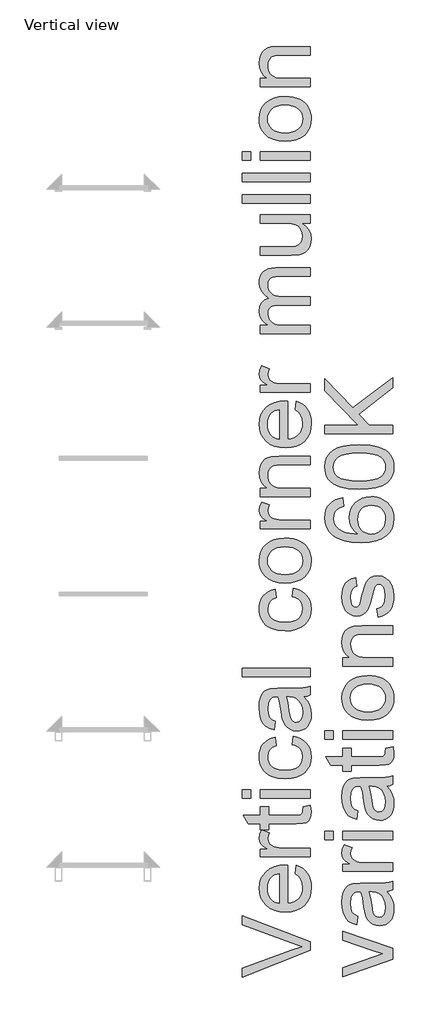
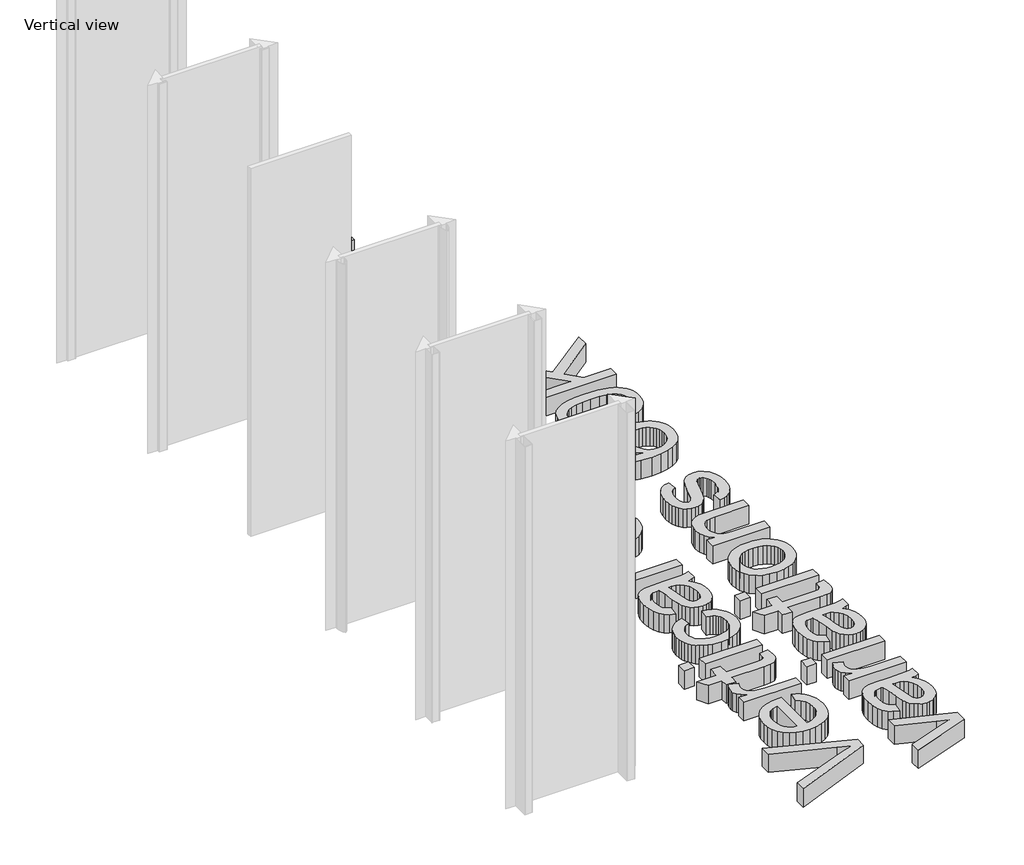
# One storey, part 5 of 8: 1 proxy.
"""IFC4 building model written with IfcOpenShell, lengths in millimetres."""

from ifc_helpers import new_model, si_unit, origin, origin_with_axes, place, context, project, spatial, polyline, outline, extrude, element, save

model = new_model("IFC4")

# Units and contexts
model_context = context("Model", 3, world=origin())
ifc_project = project(units=[si_unit("LENGTHUNIT", "METRE", prefix="MILLI")], contexts=[model_context])

# Site, building, storey
site = spatial("IfcSite", under=ifc_project)
building = spatial("IfcBuilding", under=site)
storey = spatial("IfcBuildingStorey", under=building, Name="Vertical view", Elevation=0.0)

# Proxy
placement = place(None, origin())
element("IfcBuildingElementProxy", 1, Name="600mm Arial", ObjectType="600mm Arial", at=placement, inside=storey, context=model_context, shape_type="SweptSolid", body=[
    extrude(outline(polyline([(4964.1466377, -21361.7583093), (4361.4087768, -21601.6173702), (4361.4087768, -21520.9776368), (4795.6566839, -21360.4339341), (4893.5132947, -21327.9131658), (4795.6566839, -21295.8338558), (4361.4087768, -21134.8486947), (4361.4087768, -21054.2089613), (4964.1466377, -21283.9144791), (4964.1466377, -21361.7583093)])), origin_with_axes(), (0.0, 0.0, 1.0), 150.0),
    extrude(outline(polyline([(4832.2977307, -20683.6782158), (4841.7155097, -20609.8075112), (4871.3024192, -20621.1336781), (4897.3760556, -20636.4237735), (4919.936419, -20655.6777974), (4938.9835093, -20678.8957499), (4954.1126563, -20705.8385075), (4964.9191899, -20736.266947), (4971.4031101, -20770.1810684), (4973.5644168, -20807.5808718), (4969.8350131, -20854.3294763), (4958.6468019, -20895.9829152), (4939.9997833, -20932.5411885), (4913.8939572, -20964.0042961), (4881.0558906, -20989.3053803), (4842.2121504, -21007.3775834), (4797.3627367, -21018.2209052), (4746.5076494, -21021.8353458), (4693.9281152, -21018.184117), (4647.5841809, -21007.2304306), (4607.4758464, -20988.9742865), (4573.6031116, -20963.4156849), (4546.6925437, -20932.0353507), (4527.4707095, -20896.314009), (4515.9376089, -20856.2516597), (4512.0932421, -20811.8483029), (4515.9284119, -20768.8750874), (4527.4339213, -20730.0129531), (4546.6097703, -20695.2619001), (4573.4559589, -20664.6219284), (4607.2551172, -20639.6105513), (4647.2898753, -20621.7452819), (4693.5602332, -20611.0261203), (4746.066191, -20607.4530664), (4766.3732771, -20607.8945248), (4766.3732771, -20946.4931132), (4796.4384332, -20942.129113), (4822.769587, -20933.4516964), (4845.3667385, -20920.4608635), (4864.2298878, -20903.1566141), (4879.1015175, -20882.4954416), (4889.7241101, -20859.433839), (4896.0976657, -20833.9718064), (4898.2221842, -20806.1093438), (4894.2858468, -20766.0102063), (4882.4768348, -20732.2386392), (4862.0593841, -20704.7946423), (4832.2977307, -20683.6782158)]), holes=[polyline([(4691.0310445, -20946.4931132), (4691.0310445, -20682.795299), (4651.2262126, -20692.9856303), (4635.5728337, -20701.7504188), (4622.7521462, -20712.9616226), (4607.3011024, -20733.507832), (4596.2646426, -20756.8867328), (4589.6427666, -20783.098325), (4587.4354747, -20812.1426085), (4589.1967097, -20838.6347107), (4594.4804149, -20862.9287179), (4603.2865901, -20885.0246303), (4615.6152355, -20904.9224477), (4630.8961339, -20921.6196918), (4648.5590682, -20934.113884), (4668.6040384, -20942.4050245), (4691.0310445, -20946.4931132)])]), origin_with_axes(), (0.0, 0.0, 1.0), 150.0),
    extrude(outline(polyline([(4964.1466377, -20532.1108338), (4521.5110211, -20532.1108338), (4521.5110211, -20466.1863802), (4586.9940163, -20466.1863802), (4549.0285944, -20441.8325922), (4526.6613691, -20419.3917905), (4515.7352738, -20396.8774124), (4512.0932421, -20372.3028951), (4517.9057776, -20334.7789316), (4535.3433842, -20296.6663569), (4602.8865185, -20321.8294853), (4591.2982356, -20348.316989), (4587.4354747, -20374.8044926), (4591.1510828, -20397.3004767), (4602.2979073, -20417.4052277), (4620.0298194, -20433.6472178), (4643.5006907, -20444.5549189), (4685.586391, -20453.7151806), (4731.498064, -20456.7686012), (4964.1466377, -20456.7686012), (4964.1466377, -20532.1108338)])), origin_with_axes(), (0.0, 0.0, 1.0), 150.0),
    extrude(outline(polyline([(4901.312393, -20089.4752172), (4966.3539297, -20080.0574381), (4973.5644168, -20136.4169598), (4970.4374198, -20172.5797599), (4961.056429, -20199.5455101), (4946.5986666, -20218.6017975), (4928.241355, -20231.0362089), (4896.713868, -20237.878814), (4842.7455793, -20240.1596824), (4596.8532537, -20240.1596824), (4596.8532537, -20296.6663569), (4521.5110211, -20296.6663569), (4521.5110211, -20240.1596824), (4413.9423257, -20240.1596824), (4369.6493335, -20164.8174498), (4521.5110211, -20164.8174498), (4521.5110211, -20089.4752172), (4596.8532537, -20089.4752172), (4596.8532537, -20164.8174498), (4840.5382873, -20164.8174498), (4879.386626, -20160.8443243), (4893.1454127, -20147.9684544), (4896.9529913, -20137.0975415), (4898.2221842, -20122.2902912), (4901.312393, -20089.4752172)])), origin_with_axes(), (0.0, 0.0, 1.0), 150.0),
    extrude(outline(polyline([(4964.1466377, -20014.1329846), (4521.5110211, -20014.1329846), (4521.5110211, -19938.790752), (4964.1466377, -19938.790752), (4964.1466377, -20014.1329846)])), origin_with_axes(), (0.0, 0.0, 1.0), 150.0),
    extrude(outline(polyline([(4436.7510094, -20014.1329846), (4361.4087768, -20014.1329846), (4361.4087768, -19938.790752), (4436.7510094, -19938.790752), (4436.7510094, -20014.1329846)])), origin_with_axes(), (0.0, 0.0, 1.0), 150.0),
    extrude(outline(polyline([(4804.0443934, -19543.2440307), (4813.4621725, -19467.9017981), (4849.0133688, -19476.0963696), (4880.4718779, -19488.9078601), (4907.8376998, -19506.3362696), (4931.1108346, -19528.3815981), (4949.6842768, -19554.1149437), (4962.9510212, -19582.6074042), (4970.9110679, -19613.8589797), (4973.5644168, -19647.8696702), (4969.8626042, -19690.1255158), (4958.7571665, -19728.0127628), (4940.2481036, -19761.5314111), (4914.3354156, -19790.6814607), (4881.506546, -19814.2764922), (4842.2489386, -19831.1300861), (4796.5625934, -19841.2422424), (4744.4475102, -19844.6129612), (4677.4010166, -19838.855608), (4647.2300945, -19831.6589164), (4619.2940555, -19821.5835483), (4594.1539196, -19808.5605257), (4572.370707, -19792.5208707), (4553.9444175, -19773.4645833), (4538.8750513, -19751.3916636), (4527.1580098, -19727.2999915), (4518.7886944, -19702.1874468), (4513.7671051, -19676.0540295), (4512.0932421, -19648.8997398), (4514.3925045, -19615.473062), (4521.2902919, -19585.2377605), (4532.7866043, -19558.1938353), (4548.8814416, -19534.3412865), (4569.2069218, -19514.0847841), (4593.395163, -19497.8289984), (4621.4461651, -19485.5739295), (4653.3599282, -19477.3195772), (4662.7777073, -19552.6618098), (4629.907451, -19566.3286259), (4606.3446092, -19587.6105994), (4592.1627583, -19615.3305077), (4587.4354747, -19648.3111286), (4589.7623283, -19673.9111169), (4596.7428891, -19697.0003106), (4608.3771572, -19717.5787097), (4624.6651326, -19735.6463142), (4645.9838942, -19750.3569955), (4672.7105211, -19760.864625), (4704.8450134, -19767.1692027), (4742.387371, -19769.2707286), (4780.4953472, -19767.2151879), (4813.00232, -19761.048566), (4839.9082894, -19750.7708628), (4861.2132555, -19736.3820782), (4877.4046618, -19718.6731587), (4888.969952, -19698.4350504), (4895.9091261, -19675.6677534), (4898.2221842, -19650.3712677), (4892.4464369, -19611.3573822), (4885.2267527, -19594.4853942), (4875.1191949, -19579.3700427), (4862.0133988, -19566.434392), (4845.7989999, -19556.1015065), (4826.4759981, -19548.3713861), (4804.0443934, -19543.2440307)])), origin_with_axes(), (0.0, 0.0, 1.0), 150.0),
    extrude(outline(polyline([(4907.6399633, -19119.4439723), (4938.5052627, -19155.4412255), (4958.7019842, -19192.5053365), (4969.8488087, -19231.4824339), (4973.5644168, -19273.2186463), (4971.3295337, -19306.7648857), (4964.6248843, -19336.1816498), (4953.4504687, -19361.4689384), (4937.8062869, -19382.6267517), (4918.6856202, -19399.3331928), (4897.08175, -19411.266365), (4872.9946764, -19418.4262683), (4846.4243993, -19420.8129028), (4815.1912179, -19417.2076592), (4786.8275161, -19406.3919285), (4762.5473044, -19389.7084801), (4743.5645934, -19368.500083), (4729.2171956, -19343.5760779), (4718.8429233, -19315.7458049), (4707.5121579, -19250.5571154), (4695.5927812, -19173.5226256), (4681.6132654, -19119.8854307), (4664.8378465, -19119.4439723), (4631.2134321, -19124.6311084), (4618.7606266, -19131.1150286), (4609.2140888, -19140.1925168), (4599.6859451, -19155.8826839), (4592.8801282, -19174.9941536), (4587.4354747, -19223.4810005), (4591.0591123, -19268.362604), (4601.9300253, -19299.7061499), (4622.0347763, -19321.0800939), (4653.3599282, -19336.0528911), (4643.9421491, -19411.3951237), (4602.7393657, -19398.3169187), (4570.3657501, -19378.8007789), (4545.6072918, -19351.0256883), (4527.2499803, -19313.170631), (4515.8824266, -19266.8726819), (4512.0932421, -19213.7689159), (4515.4409682, -19162.8356536), (4525.4841467, -19122.4606047), (4540.5857026, -19092.0183696), (4559.108561, -19070.8835489), (4582.0092152, -19056.8672449), (4610.2441584, -19047.7805596), (4676.1686119, -19044.1017397), (4769.9049443, -19044.1017397), (4900.7973582, -19040.2757669), (4933.1525796, -19034.6103842), (4964.1466377, -19025.2661815), (4964.1466377, -19100.6084142), (4937.9534397, -19112.6749436), (4907.6399633, -19119.4439723)]), holes=[polyline([(4756.955498, -19119.4439723), (4769.5002741, -19170.0645348), (4780.0584873, -19240.9921835), (4792.2721696, -19305.8129911), (4800.6230909, -19322.6803805), (4812.1377973, -19335.1699743), (4825.9333721, -19342.8954962), (4841.1268985, -19345.4706701), (4863.530912, -19339.8604697), (4881.8882236, -19323.0298684), (4894.138694, -19295.3467483), (4898.2221842, -19257.1789913), (4893.7156298, -19216.7119718), (4880.1959664, -19180.9538419), (4860.2751564, -19151.9647407), (4836.5651618, -19131.8048073), (4812.1377973, -19122.8652749), (4778.2926538, -19119.8854307), (4756.955498, -19119.4439723)])]), origin_with_axes(), (0.0, 0.0, 1.0), 150.0),
    extrude(outline(polyline([(4964.1466377, -18940.5061699), (4361.4087768, -18940.5061699), (4361.4087768, -18865.1639372), (4964.1466377, -18865.1639372), (4964.1466377, -18940.5061699)])), origin_with_axes(), (0.0, 0.0, 1.0), 150.0),
    extrude(outline(polyline([(4804.0443934, -18234.1727391), (4813.4621725, -18158.8305065), (4849.0133688, -18167.0250779), (4880.4718779, -18179.8365684), (4907.8376998, -18197.2649779), (4931.1108346, -18219.3103065), (4949.6842768, -18245.0436521), (4962.9510212, -18273.5361126), (4970.9110679, -18304.7876881), (4973.5644168, -18338.7983785), (4969.8626042, -18381.0542242), (4958.7571665, -18418.9414712), (4940.2481036, -18452.4601195), (4914.3354156, -18481.6101691), (4881.506546, -18505.2052005), (4842.2489386, -18522.0587944), (4796.5625934, -18532.1709508), (4744.4475102, -18535.5416696), (4677.4010166, -18529.7843163), (4647.2300945, -18522.5876248), (4619.2940555, -18512.5122567), (4594.1539196, -18499.489234), (4572.370707, -18483.449579), (4553.9444175, -18464.3932917), (4538.8750513, -18442.320372), (4527.1580098, -18418.2286998), (4518.7886944, -18393.1161551), (4513.7671051, -18366.9827379), (4512.0932421, -18339.8284481), (4514.3925045, -18306.4017703), (4521.2902919, -18276.1664689), (4532.7866043, -18249.1225437), (4548.8814416, -18225.2699948), (4569.2069218, -18205.0134925), (4593.395163, -18188.7577068), (4621.4461651, -18176.5026378), (4653.3599282, -18168.2482856), (4662.7777073, -18243.5905182), (4629.907451, -18257.2573343), (4606.3446092, -18278.5393077), (4592.1627583, -18306.2592161), (4587.4354747, -18339.2398369), (4589.7623283, -18364.8398253), (4596.7428891, -18387.929019), (4608.3771572, -18408.5074181), (4624.6651326, -18426.5750226), (4645.9838942, -18441.2857039), (4672.7105211, -18451.7933334), (4704.8450134, -18458.0979111), (4742.387371, -18460.1994369), (4780.4953472, -18458.1438963), (4813.00232, -18451.9772744), (4839.9082894, -18441.6995711), (4861.2132555, -18427.3107866), (4877.4046618, -18409.601867), (4888.969952, -18389.3637588), (4895.9091261, -18366.5964618), (4898.2221842, -18341.2999761), (4892.4464369, -18302.2860905), (4885.2267527, -18285.4141025), (4875.1191949, -18270.298751), (4862.0133988, -18257.3631004), (4845.7989999, -18247.0302148), (4826.4759981, -18239.3000944), (4804.0443934, -18234.1727391)])), origin_with_axes(), (0.0, 0.0, 1.0), 150.0),
    extrude(outline(polyline([(4742.8288294, -18111.7416111), (4685.5036175, -18107.667318), (4636.1062626, -18095.4444387), (4594.6367647, -18075.0729732), (4561.0951238, -18046.5529216), (4539.6568005, -18017.8397318), (4524.3437125, -17986.146698), (4515.1558597, -17951.4738199), (4512.0932421, -17913.8210977), (4515.8226458, -17872.2550308), (4527.010857, -17834.6712864), (4545.6578756, -17801.0698647), (4571.7637017, -17771.4507656), (4604.4454184, -17747.27632), (4642.820109, -17730.0088588), (4686.8877735, -17719.6483821), (4736.6484119, -17716.1948899), (4776.9774756, -17717.7216002), (4812.7631967, -17722.301731), (4844.0055752, -17729.9352824), (4870.704611, -17740.6222544), (4893.7662135, -17754.2292897), (4914.0962923, -17770.6230311), (4931.6948472, -17789.8034786), (4946.5618784, -17811.7706323), (4958.3754889, -17835.6691664), (4966.8137822, -17860.6437553), (4971.8767582, -17886.6943991), (4973.5644168, -17913.8210977), (4969.8488087, -17955.9941699), (4958.7019842, -17993.9274022), (4940.1239434, -18027.6207944), (4914.1146864, -18057.0743466), (4881.1156714, -18080.9912748), (4841.5683569, -18098.074795), (4795.4727429, -18108.3249071), (4742.8288294, -18111.7416111)]), holes=[polyline([(4742.6816766, -18036.3993785), (4779.2261543, -18034.2196777), (4810.8686044, -18027.6805752), (4837.609027, -18016.7820711), (4859.4474219, -18001.5241654), (4876.4113804, -17982.9645187), (4888.5284936, -17962.1607919), (4895.7987615, -17939.1129849), (4898.2221842, -17913.8210977), (4895.784966, -17888.6579692), (4888.4733113, -17865.7021327), (4876.2872202, -17844.9535882), (4859.2266927, -17826.4123357), (4837.1721671, -17811.1544299), (4810.0040817, -17800.2559258), (4777.7224367, -17793.7168233), (4740.3272319, -17791.5371225), (4704.9415825, -17793.7306189), (4674.1268668, -17800.3111081), (4647.883085, -17811.2785901), (4626.210237, -17826.6330649), (4609.2462785, -17845.2432953), (4597.1291652, -17865.9780442), (4589.8588973, -17888.8373117), (4587.4354747, -17913.8210977), (4589.8497003, -17939.1129849), (4597.092377, -17962.1607919), (4609.163505, -17982.9645187), (4626.0630842, -18001.5241654), (4647.8370998, -18016.7820711), (4674.531537, -18027.6805752), (4706.146396, -18034.2196777), (4742.6816766, -18036.3993785)])]), origin_with_axes(), (0.0, 0.0, 1.0), 150.0),
    extrude(outline(polyline([(4964.1466377, -17631.4348782), (4521.5110211, -17631.4348782), (4521.5110211, -17565.5104247), (4586.9940163, -17565.5104247), (4549.0285944, -17541.1566366), (4526.6613691, -17518.7158349), (4515.7352738, -17496.2014568), (4512.0932421, -17471.6269395), (4517.9057776, -17434.102976), (4535.3433842, -17395.9904013), (4602.8865185, -17421.1535298), (4591.2982356, -17447.6410334), (4587.4354747, -17474.1285371), (4591.1510828, -17496.6245211), (4602.2979073, -17516.7292721), (4620.0298194, -17532.9712622), (4643.5006907, -17543.8789634), (4685.586391, -17553.039225), (4731.498064, -17556.0926456), (4964.1466377, -17556.0926456), (4964.1466377, -17631.4348782)])), origin_with_axes(), (0.0, 0.0, 1.0), 150.0),
    extrude(outline(polyline([(4964.1466377, -17348.9015059), (4521.5110211, -17348.9015059), (4521.5110211, -17273.5592733), (4583.3151963, -17273.5592733), (4552.1555913, -17247.3844693), (4529.8987306, -17215.9489529), (4516.5446142, -17179.2527238), (4512.0932421, -17137.2957823), (4515.6800915, -17100.1580949), (4526.4406399, -17066.1474044), (4543.0321178, -17037.7837026), (4564.1117562, -17017.5869811), (4589.6243725, -17003.8833767), (4619.5147846, -16994.9990266), (4692.3554197, -16991.025901), (4964.1466377, -16991.025901), (4964.1466377, -17066.3681336), (4702.5089628, -17066.3681336), (4663.5502595, -17068.5386374), (4635.8487452, -17075.0501487), (4616.0015116, -17087.0614959), (4600.6056501, -17105.7315071), (4590.7280185, -17129.6622309), (4587.4354747, -17157.4557156), (4589.2840817, -17180.3333772), (4594.8299028, -17201.583161), (4604.0729379, -17221.2050669), (4617.0131871, -17239.199095), (4635.1221783, -17254.231673), (4659.8714395, -17264.9692287), (4691.2609708, -17271.4117622), (4729.290772, -17273.5592733), (4964.1466377, -17273.5592733), (4964.1466377, -17348.9015059)])), origin_with_axes(), (0.0, 0.0, 1.0), 150.0),
    extrude(outline(polyline([(4832.2977307, -16577.5265384), (4841.7155097, -16503.6558338), (4871.3024192, -16514.9820007), (4897.3760556, -16530.2720962), (4919.936419, -16549.5261201), (4938.9835093, -16572.7440725), (4954.1126563, -16599.6868301), (4964.9191899, -16630.1152696), (4971.4031101, -16664.0293911), (4973.5644168, -16701.4291944), (4969.8350131, -16748.1777989), (4958.6468019, -16789.8312378), (4939.9997833, -16826.3895111), (4913.8939572, -16857.8526188), (4881.0558906, -16883.153703), (4842.2121504, -16901.225906), (4797.3627367, -16912.0692278), (4746.5076494, -16915.6836684), (4693.9281152, -16912.0324396), (4647.5841809, -16901.0787532), (4607.4758464, -16882.8226092), (4573.6031116, -16857.2640076), (4546.6925437, -16825.8836734), (4527.4707095, -16790.1623316), (4515.9376089, -16750.0999824), (4512.0932421, -16705.6966256), (4515.9284119, -16662.72341), (4527.4339213, -16623.8612757), (4546.6097703, -16589.1102228), (4573.4559589, -16558.4702511), (4607.2551172, -16533.4588739), (4647.2898753, -16515.5936045), (4693.5602332, -16504.8744429), (4746.066191, -16501.301389), (4766.3732771, -16501.7428474), (4766.3732771, -16840.3414358), (4796.4384332, -16835.9774356), (4822.769587, -16827.3000191), (4845.3667385, -16814.3091861), (4864.2298878, -16797.0049368), (4879.1015175, -16776.3437642), (4889.7241101, -16753.2821616), (4896.0976657, -16727.820129), (4898.2221842, -16699.9576664), (4894.2858468, -16659.858529), (4882.4768348, -16626.0869618), (4862.0593841, -16598.642965), (4832.2977307, -16577.5265384)]), holes=[polyline([(4691.0310445, -16840.3414358), (4691.0310445, -16576.6436216), (4651.2262126, -16586.8339529), (4635.5728337, -16595.5987414), (4622.7521462, -16606.8099452), (4607.3011024, -16627.3561547), (4596.2646426, -16650.7350555), (4589.6427666, -16676.9466476), (4587.4354747, -16705.9909311), (4589.1967097, -16732.4830333), (4594.4804149, -16756.7770406), (4603.2865901, -16778.8729529), (4615.6152355, -16798.7707703), (4630.8961339, -16815.4680144), (4648.5590682, -16827.9622066), (4668.6040384, -16836.2533471), (4691.0310445, -16840.3414358)])]), origin_with_axes(), (0.0, 0.0, 1.0), 150.0),
    extrude(outline(polyline([(4964.1466377, -16425.9591564), (4521.5110211, -16425.9591564), (4521.5110211, -16360.0347029), (4586.9940163, -16360.0347029), (4549.0285944, -16335.6809148), (4526.6613691, -16313.2401131), (4515.7352738, -16290.725735), (4512.0932421, -16266.1512177), (4517.9057776, -16228.6272542), (4535.3433842, -16190.5146795), (4602.8865185, -16215.677808), (4591.2982356, -16242.1653116), (4587.4354747, -16268.6528153), (4591.1510828, -16291.1487993), (4602.2979073, -16311.2535503), (4620.0298194, -16327.4955404), (4643.5006907, -16338.4032416), (4685.586391, -16347.5635032), (4731.498064, -16350.6169238), (4964.1466377, -16350.6169238), (4964.1466377, -16425.9591564)])), origin_with_axes(), (0.0, 0.0, 1.0), 150.0),
    extrude(outline(polyline([(4964.1466377, -15907.9813072), (4521.5110211, -15907.9813072), (4521.5110211, -15832.6390746), (4594.3516562, -15832.6390746), (4560.8927887, -15809.9775437), (4534.6811966, -15780.8412897), (4517.7402307, -15746.2235939), (4512.0932421, -15707.1177378), (4517.8505953, -15665.2159786), (4525.0472868, -15647.3828989), (4535.122655, -15631.6283524), (4562.7689869, -15606.5388004), (4599.6491569, -15590.1312634), (4561.3434442, -15562.6688724), (4533.9822208, -15531.3437205), (4517.5654867, -15496.1558077), (4512.0932421, -15457.1051339), (4514.3695119, -15426.9434088), (4521.1983214, -15400.4697008), (4532.5796707, -15377.6840097), (4548.5135596, -15358.5863356), (4569.1839292, -15343.4893782), (4594.7747205, -15332.7058373), (4625.2859334, -15326.2357127), (4660.7175681, -15324.0790045), (4964.1466377, -15324.0790045), (4964.1466377, -15399.4212371), (4693.0911837, -15399.4212371), (4655.5120379, -15401.1686766), (4630.1833625, -15406.410995), (4612.8377264, -15416.2334443), (4599.2076985, -15431.7212763), (4590.3785306, -15451.6420863), (4587.4354747, -15474.7634697), (4589.3208699, -15496.114421), (4594.9770556, -15515.5799771), (4604.4040317, -15533.1601379), (4617.6017983, -15548.8549035), (4634.9566314, -15561.762963), (4656.8548072, -15570.9830055), (4683.2963256, -15576.515031), (4714.2811866, -15578.3590395), (4964.1466377, -15578.3590395), (4964.1466377, -15653.7012721), (4684.7034742, -15653.7012721), (4642.1027392, -15658.0606738), (4625.3825025, -15663.5099258), (4611.7156863, -15671.1388787), (4601.0930937, -15681.2510351), (4593.5055276, -15694.1498975), (4588.9529879, -15709.8354661), (4587.4354747, -15728.3077408), (4591.4821766, -15757.3336302), (4603.6222825, -15784.0786512), (4623.5614866, -15806.1515709), (4651.0054834, -15821.1611563), (4689.0812699, -15829.769595), (4740.9158431, -15832.6390746), (4964.1466377, -15832.6390746), (4964.1466377, -15907.9813072)])), origin_with_axes(), (0.0, 0.0, 1.0), 150.0),
    extrude(outline(polyline([(4964.1466377, -14928.5322833), (4888.0686411, -14928.5322833), (4925.473043, -14955.7923391), (4952.1904729, -14987.5405553), (4968.2209308, -15023.7769318), (4973.5644168, -15064.5014687), (4969.8120205, -15101.1976977), (4958.5548314, -15135.3555409), (4941.6322596, -15164.0135484), (4920.8837151, -15184.2102699), (4895.6837984, -15197.8035096), (4865.4071102, -15206.6510716), (4795.3623783, -15211.0656555), (4521.5110211, -15211.0656555), (4521.5110211, -15135.7234229), (4759.898554, -15135.7234229), (4807.5760606, -15134.5829888), (4836.7123146, -15131.1616862), (4862.3352956, -15120.1804086), (4881.8146472, -15101.3632446), (4894.1202999, -15075.9609928), (4898.2221842, -15045.2244521), (4894.0283294, -15012.7220778), (4881.4467652, -14982.3166309), (4861.6363198, -14957.245473), (4835.7558214, -14940.7459655), (4800.3103912, -14931.5857038), (4751.8051501, -14928.5322833), (4521.5110211, -14928.5322833), (4521.5110211, -14853.1900506), (4964.1466377, -14853.1900506), (4964.1466377, -14928.5322833)])), origin_with_axes(), (0.0, 0.0, 1.0), 150.0),
    extrude(outline(polyline([(4964.1466377, -14749.5944808), (4361.4087768, -14749.5944808), (4361.4087768, -14674.2522482), (4964.1466377, -14674.2522482), (4964.1466377, -14749.5944808)])), origin_with_axes(), (0.0, 0.0, 1.0), 150.0),
    extrude(outline(polyline([(4964.1466377, -14561.2388993), (4361.4087768, -14561.2388993), (4361.4087768, -14485.8966667), (4964.1466377, -14485.8966667), (4964.1466377, -14561.2388993)])), origin_with_axes(), (0.0, 0.0, 1.0), 150.0),
    extrude(outline(polyline([(4964.1466377, -14372.8833177), (4521.5110211, -14372.8833177), (4521.5110211, -14297.5410851), (4964.1466377, -14297.5410851), (4964.1466377, -14372.8833177)])), origin_with_axes(), (0.0, 0.0, 1.0), 150.0),
    extrude(outline(polyline([(4436.7510094, -14372.8833177), (4361.4087768, -14372.8833177), (4361.4087768, -14297.5410851), (4436.7510094, -14297.5410851), (4436.7510094, -14372.8833177)])), origin_with_axes(), (0.0, 0.0, 1.0), 150.0),
    extrude(outline(polyline([(4742.8288294, -14203.3632944), (4685.5036175, -14199.2890013), (4636.1062626, -14187.066122), (4594.6367647, -14166.6946565), (4561.0951238, -14138.1746048), (4539.6568005, -14109.4614151), (4524.3437125, -14077.7683812), (4515.1558597, -14043.0955032), (4512.0932421, -14005.442781), (4515.8226458, -13963.876714), (4527.010857, -13926.2929697), (4545.6578756, -13892.691548), (4571.7637017, -13863.0724488), (4604.4454184, -13838.8980032), (4642.820109, -13821.6305421), (4686.8877735, -13811.2700654), (4736.6484119, -13807.8165731), (4776.9774756, -13809.3432834), (4812.7631967, -13813.9234143), (4844.0055752, -13821.5569657), (4870.704611, -13832.2439376), (4893.7662135, -13845.8509729), (4914.0962923, -13862.2447143), (4931.6948472, -13881.4251619), (4946.5618784, -13903.3923155), (4958.3754889, -13927.2908496), (4966.8137822, -13952.2654386), (4971.8767582, -13978.3160823), (4973.5644168, -14005.442781), (4969.8488087, -14047.6158532), (4958.7019842, -14085.5490854), (4940.1239434, -14119.2424776), (4914.1146864, -14148.6960299), (4881.1156714, -14172.6129581), (4841.5683569, -14189.6964782), (4795.4727429, -14199.9465903), (4742.8288294, -14203.3632944)]), holes=[polyline([(4742.6816766, -14128.0210617), (4779.2261543, -14125.8413609), (4810.8686044, -14119.3022585), (4837.609027, -14108.4037544), (4859.4474219, -14093.1458486), (4876.4113804, -14074.5862019), (4888.5284936, -14053.7824751), (4895.7987615, -14030.7346681), (4898.2221842, -14005.442781), (4895.784966, -13980.2796525), (4888.4733113, -13957.323816), (4876.2872202, -13936.5752715), (4859.2266927, -13918.0340189), (4837.1721671, -13902.7761131), (4810.0040817, -13891.877609), (4777.7224367, -13885.3385066), (4740.3272319, -13883.1588058), (4704.9415825, -13885.3523022), (4674.1268668, -13891.9327913), (4647.883085, -13902.9002733), (4626.210237, -13918.2547481), (4609.2462785, -13936.8649785), (4597.1291652, -13957.5997275), (4589.8588973, -13980.458995), (4587.4354747, -14005.442781), (4589.8497003, -14030.7346681), (4597.092377, -14053.7824751), (4609.163505, -14074.5862019), (4626.0630842, -14093.1458486), (4647.8370998, -14108.4037544), (4674.531537, -14119.3022585), (4706.146396, -14125.8413609), (4742.6816766, -14128.0210617)])]), origin_with_axes(), (0.0, 0.0, 1.0), 150.0),
    extrude(outline(polyline([(4964.1466377, -13723.0565615), (4521.5110211, -13723.0565615), (4521.5110211, -13647.7143288), (4583.3151963, -13647.7143288), (4552.1555913, -13621.5395249), (4529.8987306, -13590.1040084), (4516.5446142, -13553.4077794), (4512.0932421, -13511.4508378), (4515.6800915, -13474.3131504), (4526.4406399, -13440.30246), (4543.0321178, -13411.9387581), (4564.1117562, -13391.7420366), (4589.6243725, -13378.0384323), (4619.5147846, -13369.1540821), (4692.3554197, -13365.1809565), (4964.1466377, -13365.1809565), (4964.1466377, -13440.5231892), (4702.5089628, -13440.5231892), (4663.5502595, -13442.6936929), (4635.8487452, -13449.2052042), (4616.0015116, -13461.2165514), (4600.6056501, -13479.8865626), (4590.7280185, -13503.8172864), (4587.4354747, -13531.6107712), (4589.2840817, -13554.4884327), (4594.8299028, -13575.7382165), (4604.0729379, -13595.3601224), (4617.0131871, -13613.3541505), (4635.1221783, -13628.3867285), (4659.8714395, -13639.1242843), (4691.2609708, -13645.5668177), (4729.290772, -13647.7143288), (4964.1466377, -13647.7143288), (4964.1466377, -13723.0565615)])), origin_with_axes(), (0.0, 0.0, 1.0), 150.0),
    extrude(outline(polyline([(5695.9955448, -21440.6322091), (5253.3599282, -21596.3198694), (5253.3599282, -21516.5630529), (5518.5292703, -21422.2381093), (5607.703866, -21393.8376193), (5523.5324655, -21366.0257405), (5253.3599282, -21271.1121857), (5253.3599282, -21191.3553691), (5695.9955448, -21345.1300431), (5695.9955448, -21440.6322091)])), origin_with_axes(), (0.0, 0.0, 1.0), 150.0),
    extrude(outline(polyline([(5639.4888703, -20842.8975433), (5670.3541697, -20878.8947965), (5690.5508913, -20915.9589076), (5701.6977157, -20954.9360049), (5705.4133239, -20996.6722173), (5703.1784408, -21030.2184567), (5696.4737914, -21059.6352208), (5685.2993758, -21084.9225094), (5669.6551939, -21106.0803227), (5650.5345272, -21122.7867638), (5628.9306571, -21134.719936), (5604.8435834, -21141.8798393), (5578.2733063, -21144.2664738), (5547.040125, -21140.6612302), (5518.6764231, -21129.8454995), (5494.3962114, -21113.1620511), (5475.4135005, -21091.953654), (5461.0661027, -21067.0296489), (5450.6918304, -21039.1993759), (5439.361065, -20974.0106864), (5427.4416883, -20896.9761966), (5413.4621725, -20843.3390017), (5396.6867535, -20842.8975433), (5363.0623392, -20848.0846794), (5350.6095336, -20854.5685996), (5341.0629959, -20863.6460878), (5331.5348522, -20879.3362549), (5324.7290353, -20898.4477246), (5319.2843817, -20946.9345715), (5322.9080194, -20991.816175), (5333.7789323, -21023.1597209), (5353.8836834, -21044.5336649), (5385.2088353, -21059.5064621), (5375.7910562, -21134.8486947), (5334.5882727, -21121.7704898), (5302.2146572, -21102.2543499), (5277.4561989, -21074.4792593), (5259.0988873, -21036.624202), (5247.7313337, -20990.3262529), (5243.9421491, -20937.2224869), (5247.2898753, -20886.2892246), (5257.3330538, -20845.9141757), (5272.4346097, -20815.4719406), (5290.9574681, -20794.3371199), (5313.8581223, -20780.3208159), (5342.0930654, -20771.2341306), (5408.017519, -20767.5553107), (5501.7538513, -20767.5553107), (5632.6462652, -20763.7293379), (5665.0014867, -20758.0639552), (5695.9955448, -20748.7197525), (5695.9955448, -20824.0619852), (5669.8023467, -20836.1285146), (5639.4888703, -20842.8975433)]), holes=[polyline([(5488.8044051, -20842.8975433), (5501.3491812, -20893.5181058), (5511.9073944, -20964.4457545), (5524.1210767, -21029.2665621), (5532.4719979, -21046.1339515), (5543.9867044, -21058.6235453), (5557.7822792, -21066.3490672), (5572.9758056, -21068.9242411), (5595.3798191, -21063.3140407), (5613.7371307, -21046.4834394), (5625.9876011, -21018.8003193), (5630.0710913, -20980.6325623), (5625.5645368, -20940.1655428), (5612.0448735, -20904.4074129), (5592.1240635, -20875.4183117), (5568.4140689, -20855.2583783), (5543.9867044, -20846.3188459), (5510.1415608, -20843.3390017), (5488.8044051, -20842.8975433)])]), origin_with_axes(), (0.0, 0.0, 1.0), 150.0),
    extrude(outline(polyline([(5695.9955448, -20663.9597409), (5253.3599282, -20663.9597409), (5253.3599282, -20598.0352873), (5318.8429233, -20598.0352873), (5280.8775014, -20573.6814992), (5258.5102761, -20551.2406975), (5247.5841809, -20528.7263194), (5243.9421491, -20504.1518022), (5249.7546847, -20466.6278386), (5267.1922912, -20428.5152639), (5334.7354255, -20453.6783924), (5323.1471427, -20480.1658961), (5319.2843817, -20506.6533997), (5322.9999899, -20529.1493837), (5334.1468143, -20549.2541348), (5351.8787265, -20565.4961248), (5375.3495978, -20576.403826), (5417.4352981, -20585.5640877), (5463.3469711, -20588.6175082), (5695.9955448, -20588.6175082), (5695.9955448, -20663.9597409)])), origin_with_axes(), (0.0, 0.0, 1.0), 150.0),
    extrude(outline(polyline([(5168.5999165, -20381.4263686), (5093.2576839, -20381.4263686), (5093.2576839, -20306.0841359), (5168.5999165, -20306.0841359), (5168.5999165, -20381.4263686)])), origin_with_axes(), (0.0, 0.0, 1.0), 150.0),
    extrude(outline(polyline([(5695.9955448, -20381.4263686), (5253.3599282, -20381.4263686), (5253.3599282, -20306.0841359), (5695.9955448, -20306.0841359), (5695.9955448, -20381.4263686)])), origin_with_axes(), (0.0, 0.0, 1.0), 150.0),
    extrude(outline(polyline([(5639.4888703, -19910.5374147), (5670.3541697, -19946.534668), (5690.5508913, -19983.598779), (5701.6977157, -20022.5758764), (5705.4133239, -20064.3120887), (5703.1784408, -20097.8583282), (5696.4737914, -20127.2750922), (5685.2993758, -20152.5623808), (5669.6551939, -20173.7201941), (5650.5345272, -20190.4266352), (5628.9306571, -20202.3598074), (5604.8435834, -20209.5197107), (5578.2733063, -20211.9063452), (5547.040125, -20208.3011016), (5518.6764231, -20197.485371), (5494.3962114, -20180.8019225), (5475.4135005, -20159.5935255), (5461.0661027, -20134.6695203), (5450.6918304, -20106.8392474), (5439.361065, -20041.6505578), (5427.4416883, -19964.616068), (5413.4621725, -19910.9788731), (5396.6867535, -19910.5374147), (5363.0623392, -19915.7245509), (5350.6095336, -19922.208471), (5341.0629959, -19931.2859593), (5331.5348522, -19946.9761264), (5324.7290353, -19966.087596), (5319.2843817, -20014.574443), (5322.9080194, -20059.4560464), (5333.7789323, -20090.7995924), (5353.8836834, -20112.1735363), (5385.2088353, -20127.1463335), (5375.7910562, -20202.4885661), (5334.5882727, -20189.4103612), (5302.2146572, -20169.8942213), (5277.4561989, -20142.1191307), (5259.0988873, -20104.2640734), (5247.7313337, -20057.9661243), (5243.9421491, -20004.8623583), (5247.2898753, -19953.9290961), (5257.3330538, -19913.5540471), (5272.4346097, -19883.111812), (5290.9574681, -19861.9769914), (5313.8581223, -19847.9606874), (5342.0930654, -19838.8740021), (5408.017519, -19835.1951821), (5501.7538513, -19835.1951821), (5632.6462652, -19831.3692094), (5665.0014867, -19825.7038266), (5695.9955448, -19816.359624), (5695.9955448, -19891.7018566), (5669.8023467, -19903.768386), (5639.4888703, -19910.5374147)]), holes=[polyline([(5488.8044051, -19910.5374147), (5501.3491812, -19961.1579773), (5511.9073944, -20032.0856259), (5524.1210767, -20096.9064335), (5532.4719979, -20113.773823), (5543.9867044, -20126.2634167), (5557.7822792, -20133.9889386), (5572.9758056, -20136.5641126), (5595.3798191, -20130.9539121), (5613.7371307, -20114.1233109), (5625.9876011, -20086.4401907), (5630.0710913, -20048.2724337), (5625.5645368, -20007.8054143), (5612.0448735, -19972.0472843), (5592.1240635, -19943.0581831), (5568.4140689, -19922.8982498), (5543.9867044, -19913.9587173), (5510.1415608, -19910.9788731), (5488.8044051, -19910.5374147)])]), origin_with_axes(), (0.0, 0.0, 1.0), 150.0),
    extrude(outline(polyline([(5633.1613, -19571.497368), (5698.2028368, -19562.0795889), (5705.4133239, -19618.4391106), (5702.2863269, -19654.6019107), (5692.905336, -19681.5676609), (5678.4475736, -19700.6239483), (5660.0902621, -19713.0583597), (5628.5627751, -19719.9009648), (5574.5944864, -19722.1818332), (5328.7021608, -19722.1818332), (5328.7021608, -19778.6885077), (5253.3599282, -19778.6885077), (5253.3599282, -19722.1818332), (5145.7912328, -19722.1818332), (5101.4982406, -19646.8396006), (5253.3599282, -19646.8396006), (5253.3599282, -19571.497368), (5328.7021608, -19571.497368), (5328.7021608, -19646.8396006), (5572.3871944, -19646.8396006), (5611.2355331, -19642.866475), (5624.9943197, -19629.9906052), (5628.8018984, -19619.1196923), (5630.0710913, -19604.3124419), (5633.1613, -19571.497368)])), origin_with_axes(), (0.0, 0.0, 1.0), 150.0),
    extrude(outline(polyline([(5695.9955448, -19496.1551354), (5253.3599282, -19496.1551354), (5253.3599282, -19420.8129028), (5695.9955448, -19420.8129028), (5695.9955448, -19496.1551354)])), origin_with_axes(), (0.0, 0.0, 1.0), 150.0),
    extrude(outline(polyline([(5168.5999165, -19496.1551354), (5093.2576839, -19496.1551354), (5093.2576839, -19420.8129028), (5168.5999165, -19420.8129028), (5168.5999165, -19496.1551354)])), origin_with_axes(), (0.0, 0.0, 1.0), 150.0),
    extrude(outline(polyline([(5474.6777365, -19326.635112), (5417.3525246, -19322.5608189), (5367.9551697, -19310.3379396), (5326.4856718, -19289.9664741), (5292.9440309, -19261.4464224), (5271.5057076, -19232.7332327), (5256.1926196, -19201.0401988), (5247.0047667, -19166.3673208), (5243.9421491, -19128.7145986), (5247.6715529, -19087.1485317), (5258.859764, -19049.5647873), (5277.5067827, -19015.9633656), (5303.6126087, -18986.3442665), (5336.2943255, -18962.1698208), (5374.6690161, -18944.9023597), (5418.7366806, -18934.541883), (5468.497319, -18931.0883908), (5508.8263827, -18932.6151011), (5544.6121038, -18937.1952319), (5575.8544822, -18944.8287833), (5602.553518, -18955.5157553), (5625.6151206, -18969.1227906), (5645.9451994, -18985.516532), (5663.5437543, -19004.6969795), (5678.4107854, -19026.6641331), (5690.224396, -19050.5626672), (5698.6626893, -19075.5372562), (5703.7256652, -19101.5879), (5705.4133239, -19128.7145986), (5701.6977157, -19170.8876708), (5690.5508913, -19208.820903), (5671.9728505, -19242.5142953), (5645.9635935, -19271.9678475), (5612.9645785, -19295.8847757), (5573.417264, -19312.9682959), (5527.32165, -19323.218408), (5474.6777365, -19326.635112)]), holes=[polyline([(5474.5305837, -19251.2928794), (5511.0750614, -19249.1131786), (5542.7175115, -19242.5740761), (5569.457934, -19231.675572), (5591.296329, -19216.4176662), (5608.2602875, -19197.8580196), (5620.3774007, -19177.0542928), (5627.6476686, -19154.0064858), (5630.0710913, -19128.7145986), (5627.633873, -19103.5514701), (5620.3222184, -19080.5956336), (5608.1361273, -19059.8470891), (5591.0755998, -19041.3058365), (5569.0210742, -19026.0479308), (5541.8529888, -19015.1494267), (5509.5713437, -19008.6103242), (5472.1761389, -19006.4306234), (5436.7904895, -19008.6241198), (5405.9757739, -19015.204609), (5379.7319921, -19026.172091), (5358.059144, -19041.5265657), (5341.0951855, -19060.1367962), (5328.9780723, -19080.8715451), (5321.7078044, -19103.7308126), (5319.2843817, -19128.7145986), (5321.6986073, -19154.0064858), (5328.9412841, -19177.0542928), (5341.0124121, -19197.8580196), (5357.9119912, -19216.4176662), (5379.6860068, -19231.675572), (5406.3804441, -19242.5740761), (5437.9953031, -19249.1131786), (5474.5305837, -19251.2928794)])]), origin_with_axes(), (0.0, 0.0, 1.0), 150.0),
    extrude(outline(polyline([(5695.9955448, -18846.3283791), (5253.3599282, -18846.3283791), (5253.3599282, -18770.9861465), (5315.1641034, -18770.9861465), (5284.0044984, -18744.8113425), (5261.7476377, -18713.375826), (5248.3935213, -18676.679597), (5243.9421491, -18634.7226555), (5247.5289986, -18597.584968), (5258.2895469, -18563.5742776), (5274.8810249, -18535.2105758), (5295.9606632, -18515.0138542), (5321.4732796, -18501.3102499), (5351.3636917, -18492.4258997), (5424.2043268, -18488.4527742), (5695.9955448, -18488.4527742), (5695.9955448, -18563.7950068), (5434.3578698, -18563.7950068), (5395.3991665, -18565.9655106), (5367.6976523, -18572.4770219), (5347.8504187, -18584.488369), (5332.4545572, -18603.1583803), (5322.5769256, -18627.0891041), (5319.2843817, -18654.8825888), (5321.1329888, -18677.7602504), (5326.6788098, -18699.0100341), (5335.921845, -18718.63194), (5348.8620942, -18736.6259681), (5366.9710854, -18751.6585462), (5391.7203466, -18762.3961019), (5423.1098778, -18768.8386353), (5461.1396791, -18770.9861465), (5695.9955448, -18770.9861465), (5695.9955448, -18846.3283791)])), origin_with_axes(), (0.0, 0.0, 1.0), 150.0),
    extrude(outline(polyline([(5564.1466377, -18413.1105416), (5554.7288587, -18337.768309), (5571.9089478, -18333.2157693), (5586.9553214, -18325.8857205), (5599.8679795, -18315.7781627), (5610.6469219, -18302.8930958), (5619.144996, -18287.1937317), (5625.2150489, -18268.6432821), (5630.0710913, -18222.9891265), (5625.6197191, -18177.8867939), (5620.0555039, -18160.3572168), (5612.2656027, -18146.1753659), (5592.9150098, -18127.4133841), (5582.080885, -18122.7228887), (5570.474208, -18121.1593902), (5560.3022709, -18122.7320857), (5551.2707679, -18127.4501723), (5536.6290645, -18146.3225187), (5527.0641326, -18174.5390677), (5515.144756, -18223.8720432), (5495.2607341, -18292.6291881), (5478.2829801, -18337.3268506), (5459.7601216, -18366.0400403), (5435.2407866, -18386.8437671), (5406.2884736, -18399.4805136), (5374.466681, -18403.6927625), (5345.2752447, -18400.3082481), (5318.3278886, -18390.1547051), (5294.6914704, -18374.1518383), (5275.4328479, -18353.2193528), (5263.3111362, -18332.4156259), (5253.139199, -18305.321117), (5246.2414116, -18273.9959651), (5243.9421491, -18240.5003094), (5247.6393632, -18191.4616395), (5258.7310053, -18148.8241162), (5276.1318237, -18114.5375143), (5298.7565664, -18090.5516082), (5328.2790965, -18074.659106), (5366.3732771, -18064.6527157), (5375.7910562, -18139.9949483), (5352.0810616, -18149.5046979), (5334.2203907, -18168.321862), (5323.018384, -18196.6303815), (5319.2843817, -18234.6141975), (5322.8528371, -18277.8771201), (5333.5582032, -18306.7190686), (5349.0092469, -18322.9426645), (5366.8147355, -18328.3505299), (5378.4030184, -18326.1064497), (5388.7405024, -18319.3742092), (5397.9743405, -18307.8595027), (5405.3687686, -18291.2680248), (5421.4084236, -18226.3736408), (5456.8722479, -18115.7883131), (5473.8316079, -18086.5784826), (5497.0449618, -18064.4319865), (5526.585886, -18050.4708648), (5562.5279569, -18045.8171576), (5599.6840385, -18051.2802052), (5634.632828, -18067.6693481), (5664.6336047, -18094.3591868), (5686.9456477, -18130.7243221), (5700.7964048, -18174.6494323), (5705.4133239, -18224.019196), (5703.1876378, -18264.568989), (5696.5105796, -18299.986828), (5685.3821492, -18330.2727133), (5669.8023467, -18355.4266447), (5649.8447485, -18375.9728542), (5625.5829309, -18392.4355734), (5597.016894, -18404.8148026), (5564.1466377, -18413.1105416)])), origin_with_axes(), (0.0, 0.0, 1.0), 150.0),
    extrude(outline(polyline([(5253.3599282, -17358.319285), (5262.7777073, -17433.6615176), (5225.4376848, -17445.8016234), (5199.9434625, -17462.2091604), (5186.2306611, -17478.4051653), (5176.435803, -17496.3853978), (5170.5588881, -17516.149858), (5168.5999165, -17537.6985458), (5173.1616533, -17572.7209118), (5186.8468635, -17605.6831386), (5215.6704178, -17633.9916581), (5255.346491, -17657.1130415), (5280.6521737, -17666.149143), (5311.4668893, -17672.7296322), (5389.6234192, -17678.5237736), (5354.36193, -17648.3022677), (5329.5115012, -17612.0842853), (5314.7778273, -17571.8931773), (5309.8666027, -17529.7522947), (5313.2235259, -17493.5527064), (5323.2942955, -17460.1490213), (5340.0789115, -17429.5412393), (5363.577374, -17401.7293604), (5392.3917312, -17378.6171741), (5425.1240318, -17362.1084695), (5461.7742755, -17352.2032468), (5502.3424625, -17348.9015059), (5529.809452, -17350.4558073), (5556.2923571, -17355.1187116), (5581.7911779, -17362.8902188), (5606.3059144, -17373.7703288), (5628.92146, -17387.3727656), (5648.7227084, -17403.311253), (5665.7096595, -17421.5857911), (5679.8823134, -17442.1963799), (5691.0521305, -17464.701561), (5699.0305713, -17488.6598759), (5703.8176357, -17514.0713247), (5705.4133239, -17540.9359074), (5701.1826809, -17585.8497005), (5688.4907521, -17626.413289), (5667.3375374, -17662.6266729), (5637.7230368, -17694.4898522), (5598.3964515, -17720.4669196), (5548.1069827, -17739.0219677), (5486.8546305, -17750.1549966), (5414.6393949, -17753.8660062), (5333.6777648, -17749.7457279), (5264.5803291, -17737.3848928), (5207.3470877, -17716.7835011), (5183.1795398, -17703.3925965), (5161.9780406, -17687.9415527), (5131.9128845, -17656.6807801), (5110.4377731, -17620.4352066), (5097.5527062, -17579.2048319), (5093.2576839, -17532.9896563), (5095.9156313, -17498.2891871), (5103.8894736, -17466.8812618), (5117.1792106, -17438.7658803), (5135.7848425, -17413.9430427), (5159.0809699, -17393.0841335), (5186.4421933, -17376.8605376), (5217.8685127, -17365.2722547), (5253.3599282, -17358.319285)]), holes=[polyline([(5501.1652402, -17678.5237736), (5534.5505312, -17674.164372), (5566.4275061, -17661.086167), (5593.8347147, -17640.7790809), (5613.8107071, -17614.7330356), (5626.0059952, -17583.2975191), (5630.0710913, -17546.8220193), (5627.9649668, -17520.6334198), (5621.6465936, -17497.1027677), (5611.1159715, -17476.230063), (5596.3731005, -17458.0153057), (5578.0157889, -17443.2402451), (5556.641845, -17432.6866303), (5532.2512687, -17426.3544615), (5504.8440601, -17424.2437385), (5478.5083078, -17426.3268703), (5455.1248085, -17432.5762657), (5434.6935622, -17442.9919247), (5417.2145689, -17457.5738473), (5403.2120604, -17475.8437869), (5393.2102687, -17497.3234969), (5387.2091936, -17522.0129773), (5385.2088353, -17549.9122281), (5387.2091936, -17575.7513397), (5393.2102687, -17599.5579033), (5403.2120604, -17621.3319189), (5417.2145689, -17641.0733865), (5434.4636359, -17657.4579308), (5454.2051035, -17669.1611768), (5476.4389716, -17676.1831244), (5501.1652402, -17678.5237736)])]), origin_with_axes(), (0.0, 0.0, 1.0), 150.0),
    extrude(outline(polyline([(5399.4826567, -17282.9770524), (5303.0056035, -17277.4404284), (5262.0925271, -17270.5196483), (5226.0630842, -17260.8305563), (5194.6229691, -17248.4145389), (5167.4778764, -17233.312983), (5144.627806, -17215.5258886), (5126.0727579, -17195.0532555), (5111.716163, -17171.8261061), (5101.4614524, -17145.7754623), (5095.308626, -17116.9013242), (5093.2576839, -17085.2036918), (5098.1137262, -17038.776984), (5112.6818532, -16997.2063185), (5136.3918478, -16962.44147), (5168.6734929, -16936.4322129), (5209.250877, -16916.7873144), (5257.8480885, -16901.1155414), (5319.5602932, -16890.8516337), (5399.4826567, -16887.4303312), (5495.4078869, -16892.9117729), (5536.1830076, -16899.7635751), (5572.1664652, -16909.3560981), (5603.6203758, -16921.6755464), (5630.8068553, -16936.7081244), (5653.7259036, -16954.4538322), (5672.3775207, -16974.9126696), (5686.8306846, -16998.1674102), (5697.1543731, -17024.3008275), (5703.3485862, -17053.3129213), (5705.4133239, -17085.2036918), (5701.8264744, -17126.7007808), (5691.0659261, -17163.4889803), (5673.1316788, -17195.5682903), (5648.0237326, -17222.9387108), (5602.6362915, -17249.2054852), (5546.0836318, -17267.967467), (5478.3657535, -17279.224656), (5399.4826567, -17282.9770524)]), holes=[polyline([(5399.3355039, -17207.6348198), (5464.8322946, -17205.4275278), (5517.8486886, -17198.8056519), (5558.384686, -17187.769192), (5586.4402866, -17172.3181482), (5605.5287637, -17153.6297429), (5619.1633901, -17132.8811984), (5627.344166, -17110.0725146), (5630.0710913, -17085.2036918), (5627.3349689, -17060.3348689), (5619.1266019, -17037.5261852), (5605.4459902, -17016.7776407), (5586.2931338, -16998.0892353), (5558.1915479, -16982.6381915), (5517.6647476, -16971.6017317), (5464.712733, -16964.9798558), (5399.3355039, -16962.7725638), (5335.5723571, -16964.9062794), (5283.4894636, -16971.3074261), (5243.0868235, -16981.9760039), (5214.3644367, -16996.9120129), (5194.3424591, -17015.2877186), (5180.0410466, -17036.2753864), (5171.460199, -17059.8750164), (5168.5999165, -17086.0866086), (5171.1199082, -17110.8266727), (5178.6798832, -17133.2490803), (5191.2798415, -17153.3538314), (5208.9197832, -17171.1409258), (5240.1897528, -17187.1070044), (5282.3490294, -17198.5113463), (5335.3976131, -17205.3539514), (5399.3355039, -17207.6348198)])]), origin_with_axes(), (0.0, 0.0, 1.0), 150.0),
    extrude(outline(polyline([(5695.9955448, -16793.2525404), (5093.2576839, -16793.2525404), (5093.2576839, -16717.9103078), (5388.299044, -16717.9103078), (5093.2576839, -16408.8894318), (5093.2576839, -16303.5280284), (5341.0629959, -16562.9584114), (5695.9955448, -16294.1102493), (5695.9955448, -16386.2279009), (5391.977864, -16616.3748771), (5488.8044051, -16717.9103078), (5695.9955448, -16717.9103078), (5695.9955448, -16793.2525404)])), origin_with_axes(), (0.0, 0.0, 1.0), 150.0),
])

save(model, "model.ifc")
